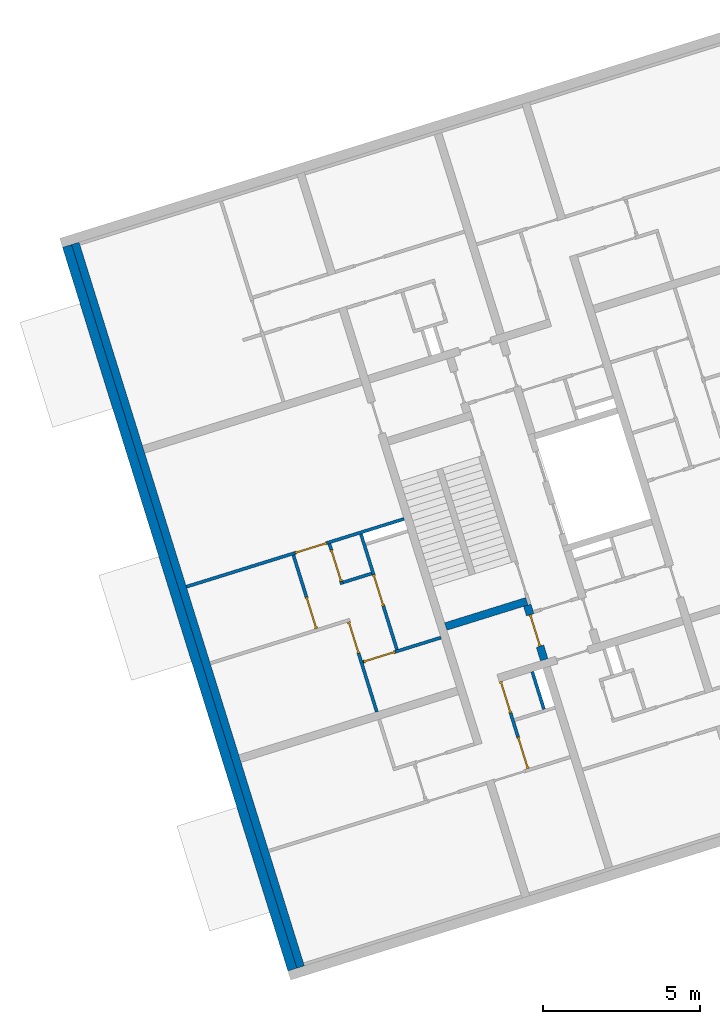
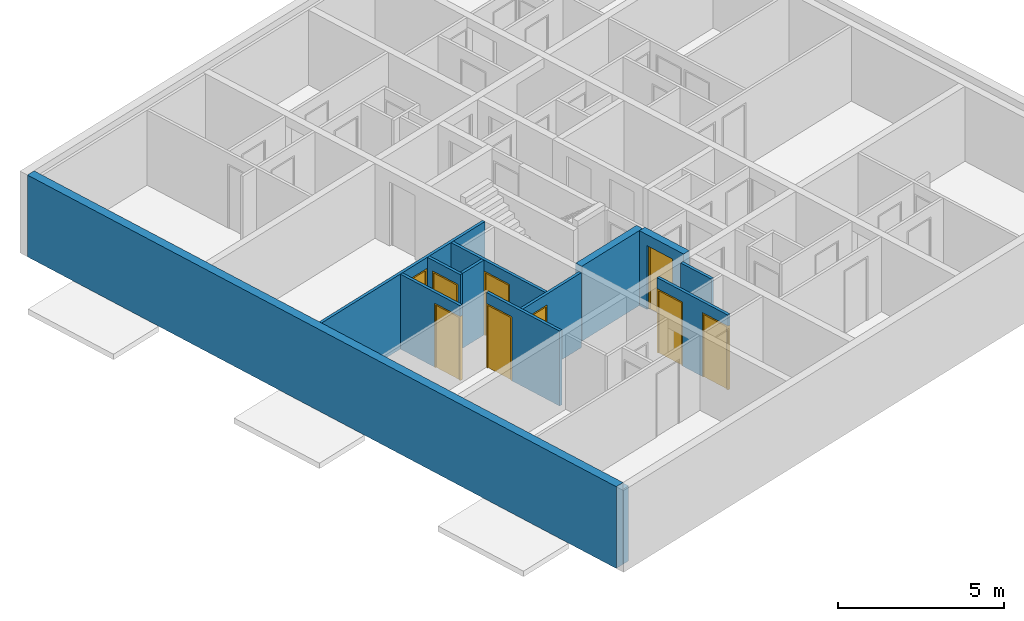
# One storey, part 2 of 9: 13 walls, 9 doors, 9 openings.
"""IFC4 building model written with IfcOpenShell, lengths in metres."""

from ifc_helpers import new_model, entity, si_unit, converted_unit, direction, frame, origin, place, context, subcontext, project, spatial, indexed_curve, outline, extrude, polygons, source, transform, mapped, material, constituent, constituent_set, type_object, type_shapes, element, fill, save


model = new_model("IFC4")

# Units and contexts
model_context = context("Model", 3, precision=1e-05, world=origin(), true_north=direction((6.12323399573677e-17, 1.0)))
body_context = subcontext(model_context, "Body", "Model", "MODEL_VIEW")
ifc_project = project(units=[si_unit("LENGTHUNIT", "METRE"), si_unit("AREAUNIT", "SQUARE_METRE"), converted_unit("PLANEANGLEUNIT", "DEGREE", entity("IfcPlaneAngleMeasure", 0.0174532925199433), si_unit("PLANEANGLEUNIT", "RADIAN"), dimensions=[0, 0, 0, 0, 0, 0, 0]), si_unit("VOLUMEUNIT", "CUBIC_METRE")], contexts=[model_context])

# Site, building, storey
site_placement = place(None, frame((13.1347999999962, 11.9886000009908, 0.0), z_axis=(0.0, 0.0, 1.0), x_axis=(0.954770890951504, 0.297342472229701, 0.0)))
site = spatial("IfcSite", under=ifc_project, at=site_placement, Name="Schiehaven", CompositionType="ELEMENT")
building_placement = place(site_placement, origin())
building = spatial("IfcBuilding", under=site, at=building_placement, Name="VORM huis", CompositionType="ELEMENT")
storey_placement = place(building_placement, frame((0.0, 0.0, 18.9)))
storey = spatial("IfcBuildingStorey", under=building, at=storey_placement, Name="06 zesde verdieping", CompositionType="ELEMENT", Elevation=18.9)

# Walls
ifc_material_1 = material(Name="beton_gewapend_ihw", Category="Miscellaneous")
wall_type_1 = type_object("IfcWallType", Name="Basic Wall:28_WA_skelet_wand 250mm_gen", PredefinedType="STANDARD")
wall_1_placement = place(storey_placement, frame((57.5, 5.0, 0.0), z_axis=(0.0, 0.0, 1.0), x_axis=(0.0, 1.0, 0.0)))
element("IfcWall", 1, at=wall_1_placement, inside=storey, type_object=wall_type_1, material=ifc_material_1, Name="Constructieve wand", ObjectType="Wand", PredefinedType="NOTDEFINED", context=body_context, shape_type="SweptSolid", body=[
    extrude(outline(indexed_curve([(24.1, 0.125), (-3.36234372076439e-16, 0.124999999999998), (3.36234372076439e-16, -0.124999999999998), (24.1, -0.124999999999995), (24.1, 0.125)], self_intersect=False)), origin(), (0.0, 0.0, 1.0), 2.75),
])
ifc_material_2 = material(Name="ntb_ntb_ntb", Category="Miscellaneous")
wall_type_2 = type_object("IfcWallType", Name="Basic Wall: 300mm_gen", PredefinedType="STANDARD")
wall_2_placement = place(storey_placement, frame((57.2249999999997, 29.0999999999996, 0.0), z_axis=(0.0, 0.0, 1.0), x_axis=(0.0, -1.0, 0.0)))
element("IfcWall", 2, at=wall_2_placement, inside=storey, type_object=wall_type_2, material=ifc_material_2, Name="Gevelwand", ObjectType="Wand", PredefinedType="NOTDEFINED", context=body_context, shape_type="SweptSolid", body=[
    extrude(outline(indexed_curve([(24.1, 0.150000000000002), (1.77178001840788e-15, 0.150000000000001), (-1.77178001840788e-15, -0.150000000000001), (24.1, -0.149999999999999), (24.1, 0.150000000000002)], self_intersect=False)), origin(), (0.0, 0.0, 1.0), 3.0),
])

# Wall, opening, door
wall_type_3 = type_object("IfcWallType", Name="Basic Wall:22_WA_afbouw_binnenwand 250mm_gen", PredefinedType="STANDARD")
wall_3_placement = place(storey_placement, frame((67.7999999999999, 13.8399999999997, 0.0), z_axis=(0.0, 0.0, 1.0), x_axis=(0.0, -1.0, 0.0)))
wall_3 = element("IfcWall", 3, at=wall_3_placement, inside=storey, type_object=wall_type_3, material=ifc_material_2, Name="Binnenwand", ObjectType="Wand", PredefinedType="NOTDEFINED", context=body_context, shape_type="Tessellation", body=[
    polygons([(0.0, -0.125000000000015, 0.0), (0.315000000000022, -0.125000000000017, 0.0), (0.315000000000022, -0.125000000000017, 2.34999999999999), (1.36500000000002, -0.125000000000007, 2.34999999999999), (1.36500000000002, -0.125000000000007, 0.0), (1.815, -0.12500000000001, 0.0), (1.815, -0.12500000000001, 2.75), (0.0, -0.125000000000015, 2.75), (0.315000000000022, 0.124999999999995, 2.34999999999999), (0.315000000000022, 0.124999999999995, 0.0), (0.215000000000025, 0.124999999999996, 0.0), (0.0, 0.124999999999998, 0.0), (0.0, 0.124999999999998, 2.75), (0.215000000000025, 0.124999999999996, 2.75), (0.315000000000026, 0.124999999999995, 2.75), (1.815, 0.125000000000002, 2.75), (1.815, 0.125000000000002, 0.0), (1.36500000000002, 0.125000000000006, 0.0), (1.36500000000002, 0.125000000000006, 2.34999999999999), (0.0, 0.0250000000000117, 0.0), (0.0, 0.0250000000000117, 2.75)], [[[1, 2, 3, 4, 5, 6, 7, 8]], [[9, 10, 11, 12, 13, 14, 15, 16, 17, 18, 19]], [[12, 11, 10, 2, 1, 20]], [[7, 6, 17, 16]], [[8, 7, 16, 15, 14, 13, 21]], [[5, 4, 19, 18]], [[3, 2, 10, 9]], [[4, 3, 9, 19]], [[1, 8, 21, 13, 12, 20]], [[18, 17, 6, 5]]], closed=True),
])
opening_1_placement = place(wall_3_placement, frame((0.31500000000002, -0.124999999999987, 0.0)))
opening_1 = element("IfcOpeningElement", 4, at=opening_1_placement, cuts=wall_3, Name="Woningtoegangsdeur", PredefinedType="OPENING", context=body_context, shape_type="SweptSolid", body=[
    extrude(outline(indexed_curve([(2.34999999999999, 1.05), (0.0, 1.05), (0.0, 1.35358391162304e-15), (2.34999999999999, 1.35358391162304e-15), (2.34999999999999, 1.05)], self_intersect=False)), frame((0.0, 0.0, 0.0), z_axis=(0.0, 1.0, 0.0), x_axis=(0.0, 0.0, 1.0)), (0.0, 0.0, 1.0), 0.25),
])
ifc_material_3 = material(Name="PD_a_binnenwandopeningen", Category="Miscellaneous")
ifc_constituent_1 = constituent(ifc_material_3, Name="PD_a_binnenwandopeningen", Category="Miscellaneous")
ifc_material_4 = material(Name="metaal_aluminium_ntb", Category="Miscellaneous")
ifc_constituent_2 = constituent(ifc_material_4, Name="metaal_aluminium_ntb", Category="Miscellaneous")
ifc_constituent_set_1 = constituent_set(constituents=[ifc_constituent_1, ifc_constituent_2])
ifc_constituent_3 = constituent(ifc_material_3, Name="PD_a_binnenwandopeningen", Category="Miscellaneous")
ifc_constituent_4 = constituent(ifc_material_4, Name="Panel", Category="Miscellaneous")
ifc_constituent_set_2 = constituent_set(constituents=[ifc_constituent_3, ifc_constituent_4])
door_type_1 = type_object("IfcDoorType", Name="32_DO_binnendeur enkel:woningtoegangsdeur", OperationType="REVOLVING", PredefinedType="DOOR", material=ifc_constituent_set_2)
shared_shape_1 = source(origin(), body_context, "Body", "SweptSolid", [
    extrude(outline(indexed_curve([(-1.16249999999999, -0.525000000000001), (1.18749999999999, -0.525), (1.18749999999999, 0.525000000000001), (-1.16249999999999, 0.525000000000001), (-1.16249999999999, 0.475), (1.13749999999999, 0.475), (1.13749999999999, -0.475), (-1.16249999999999, -0.475), (-1.16249999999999, -0.525000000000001)], self_intersect=False)), frame((0.525000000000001, 0.0749999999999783, 1.16249999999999), z_axis=(0.0, 1.0, 0.0), x_axis=(0.0, 0.0, 1.0)), (0.0, 0.0, 1.0), 0.1),
    extrude(outline(indexed_curve([(-0.025, -0.475), (0.025, -0.475), (0.025, 0.475), (-0.025, 0.475), (-0.025, -0.475)], self_intersect=False)), frame((0.525000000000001, 0.12499999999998, 0.0), z_axis=(0.0, 0.0, 1.0), x_axis=(0.0, 1.0, 0.0)), (0.0, 0.0, 1.0), 2.29999999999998),
])
type_shapes(door_type_1, [shared_shape_1])
door_1_placement = place(opening_1_placement, origin())
door_1 = element("IfcDoor", 5, at=door_1_placement, inside=storey, type_object=door_type_1, material=ifc_constituent_set_1, Name="Woningtoegangsdeur", ObjectType="Deur", OperationType="REVOLVING", OverallHeight=2.34999999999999, OverallWidth=1.05, PredefinedType="DOOR", context=body_context, shape_type="MappedRepresentation", body=[
    mapped(shared_shape_1, transform((0.0, 0.0, 0.0), scale=1.0)),
])
fill(opening_1, door_1)

# Wall
wall_4_placement = place(storey_placement, frame((65.1249999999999, 13.9649999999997, 0.0)))
element("IfcWall", 6, at=wall_4_placement, inside=storey, type_object=wall_type_3, material=ifc_material_2, Name="Binnenwand", ObjectType="Wand", PredefinedType="NOTDEFINED", context=body_context, shape_type="SweptSolid", body=[
    extrude(outline(indexed_curve([(2.70000000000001, 0.125000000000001), (1.53816777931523e-15, 0.125), (-1.53816777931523e-15, -0.125), (2.70000000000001, -0.124999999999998), (2.70000000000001, 0.125000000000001)], self_intersect=False)), origin(), (0.0, 0.0, 1.0), 2.75),
])

# Wall, openings, doors
wall_type_4 = type_object("IfcWallType", Name="Basic Wall:22_WA_afbouw_binnenwand 100mm_gen", PredefinedType="STANDARD")
wall_5_placement = place(storey_placement, frame((66.275, 11.7749999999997, 0.0), z_axis=(0.0, 0.0, 1.0), x_axis=(0.0, -1.0, 0.0)))
wall_5 = element("IfcWall", 7, at=wall_5_placement, inside=storey, type_object=wall_type_4, material=ifc_material_2, Name="Binnenwand", ObjectType="Wand", PredefinedType="NOTDEFINED", context=body_context, shape_type="Tessellation", body=[
    polygons([(2.90000000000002, -0.0500000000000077, 2.75), (2.16573425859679e-15, -0.050000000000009, 2.75), (2.16573425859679e-15, -0.050000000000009, 2.34999999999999), (1.05, -0.0500000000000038, 2.34999999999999), (1.05, -0.0500000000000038, 2.16573425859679e-15), (1.85, -0.050000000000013, 2.16573425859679e-15), (1.85, -0.050000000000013, 2.34999999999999), (2.90000000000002, -0.0500000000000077, 2.34999999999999), (2.16573425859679e-15, 0.0499999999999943, 2.75), (1.25000000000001, 0.0499999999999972, 2.75), (1.35000000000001, 0.049999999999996, 2.75), (2.90000000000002, 0.0499999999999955, 2.75), (2.90000000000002, 0.0499999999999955, 2.34999999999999), (1.85, 0.0499999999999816, 2.34999999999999), (1.85, 0.0499999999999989, 2.16573425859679e-15), (1.35000000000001, 0.049999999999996, 2.16573425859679e-15), (1.25000000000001, 0.0499999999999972, 2.16573425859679e-15), (1.05, 0.0499999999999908, 2.16573425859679e-15), (1.05, 0.0499999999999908, 2.34999999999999), (2.16573425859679e-15, 0.0499999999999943, 2.34999999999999)], [[[1, 2, 3, 4, 5, 6, 7, 8]], [[9, 10, 11, 12, 13, 14, 15, 16, 17, 18, 19, 20]], [[15, 6, 5, 18, 17, 16]], [[2, 1, 12, 11, 10, 9]], [[2, 9, 20, 3]], [[4, 19, 18, 5]], [[19, 4, 3, 20]], [[14, 7, 6, 15]], [[7, 14, 13, 8]], [[12, 1, 8, 13]]], closed=True),
])
opening_2_placement = place(wall_5_placement, frame((2.9, 0.0500000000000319, 0.0)))
opening_2 = element("IfcOpeningElement", 8, at=opening_2_placement, cuts=wall_5, Name="Binnendeur", PredefinedType="OPENING", context=body_context, shape_type="SweptSolid", body=[
    extrude(outline(indexed_curve([(2.34999999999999, 0.0), (2.34999999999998, 1.05), (0.0, 1.05), (2.16573425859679e-15, 0.0), (2.34999999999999, 0.0)], self_intersect=False)), frame((0.0, 0.0, 0.0), z_axis=(0.0, -1.0, 0.0), x_axis=(0.0, 0.0, 1.0)), (0.0, 0.0, 1.0), 0.1),
])
opening_3_placement = place(wall_5_placement, frame((1.05, 0.0500000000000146, 0.0)))
opening_3 = element("IfcOpeningElement", 9, at=opening_3_placement, cuts=wall_5, Name="Binnendeur", PredefinedType="OPENING", context=body_context, shape_type="SweptSolid", body=[
    extrude(outline(indexed_curve([(2.34999999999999, 1.35358391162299e-15), (2.34999999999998, 1.05), (0.0, 1.05), (2.16573425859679e-15, 1.35358391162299e-15), (2.34999999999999, 1.35358391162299e-15)], self_intersect=False)), frame((0.0, 0.0, 0.0), z_axis=(0.0, -1.0, 0.0), x_axis=(0.0, 0.0, 1.0)), (0.0, 0.0, 1.0), 0.1),
])
ifc_constituent_5 = constituent(ifc_material_3, Name="PD_a_binnenwandopeningen", Category="Miscellaneous")
ifc_constituent_6 = constituent(ifc_material_4, Name="metaal_aluminium_ntb", Category="Miscellaneous")
ifc_constituent_set_3 = constituent_set(constituents=[ifc_constituent_5, ifc_constituent_6])
ifc_constituent_7 = constituent(ifc_material_3, Name="PD_a_binnenwandopeningen", Category="Miscellaneous")
ifc_constituent_8 = constituent(ifc_material_4, Name="Panel", Category="Miscellaneous")
ifc_constituent_set_4 = constituent_set(constituents=[ifc_constituent_7, ifc_constituent_8])
door_type_2 = type_object("IfcDoorType", Name="32_DO_binnendeur enkel:binnendeur", OperationType="REVOLVING", PredefinedType="DOOR", material=ifc_constituent_set_4)
shared_shape_2 = source(origin(), body_context, "Body", "SweptSolid", [
    extrude(outline(indexed_curve([(0.475, -1.16249999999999), (0.525, -1.16249999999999), (0.525, 1.18749999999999), (-0.525, 1.18749999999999), (-0.525, -1.16249999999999), (-0.475, -1.16249999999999), (-0.475, 1.13749999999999), (0.475, 1.13749999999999), (0.475, -1.16249999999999)], self_intersect=False)), frame((0.525000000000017, 0.100000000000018, 1.16249999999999), z_axis=(0.0, -1.0, 0.0), x_axis=(1.0, 0.0, 0.0)), (0.0, 0.0, 1.0), 0.1),
    extrude(outline(indexed_curve([(-0.475, -0.025), (0.475, -0.025), (0.475, 0.025), (-0.475, 0.025), (-0.475, -0.025)], self_intersect=False)), frame((0.525000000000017, 0.0499999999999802, 0.0)), (0.0, 0.0, 1.0), 2.29999999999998),
])
type_shapes(door_type_2, [shared_shape_2])
door_2_placement = place(opening_2_placement, frame((0.0, 0.0, 0.0), z_axis=(0.0, 0.0, 1.0), x_axis=(-1.0, 0.0, 0.0)))
door_2 = element("IfcDoor", 10, at=door_2_placement, inside=storey, type_object=door_type_2, material=ifc_constituent_set_3, Name="Binnendeur", ObjectType="Deur", OperationType="REVOLVING", OverallHeight=2.34999999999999, OverallWidth=1.05, PredefinedType="DOOR", context=body_context, shape_type="MappedRepresentation", body=[
    mapped(shared_shape_2, transform((0.0, 0.0, 0.0), scale=1.0)),
])
fill(opening_2, door_2)
ifc_constituent_9 = constituent(ifc_material_3, Name="PD_a_binnenwandopeningen", Category="Miscellaneous")
ifc_constituent_10 = constituent(ifc_material_4, Name="metaal_aluminium_ntb", Category="Miscellaneous")
ifc_constituent_set_5 = constituent_set(constituents=[ifc_constituent_9, ifc_constituent_10])
door_3_placement = place(opening_3_placement, frame((0.0, 0.0, 0.0), z_axis=(0.0, 0.0, 1.0), x_axis=(-1.0, 0.0, 0.0)))
door_3 = element("IfcDoor", 11, at=door_3_placement, inside=storey, type_object=door_type_2, material=ifc_constituent_set_5, Name="Binnendeur", ObjectType="Deur", OperationType="REVOLVING", OverallHeight=2.34999999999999, OverallWidth=1.05, PredefinedType="DOOR", context=body_context, shape_type="MappedRepresentation", body=[
    mapped(shared_shape_2, transform((0.0, 0.0, 0.0), scale=1.0)),
])
fill(opening_3, door_3)

# Wall
wall_6_placement = place(storey_placement, frame((67.3250000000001, 11.7749999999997, 0.0), z_axis=(0.0, 0.0, 1.0), x_axis=(0.0, -1.0, 0.0)))
element("IfcWall", 12, at=wall_6_placement, inside=storey, type_object=wall_type_4, material=ifc_material_2, Name="Binnenwand", ObjectType="Wand", PredefinedType="NOTDEFINED", context=body_context, shape_type="SweptSolid", body=[
    extrude(outline(indexed_curve([(1.25000000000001, 0.0499999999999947), (-9.34348297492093e-16, 0.0499999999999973), (9.34348297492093e-16, -0.0499999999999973), (1.25000000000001, -0.0499999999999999), (1.25000000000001, 0.0499999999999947)], self_intersect=False)), origin(), (0.0, 0.0, 1.0), 2.75),
])

# Wall, opening, door
wall_7_placement = place(storey_placement, frame((64.8771642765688, 17.6249999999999, 0.0), z_axis=(0.0, 0.0, 1.0), x_axis=(-1.0, 0.0, 0.0)))
wall_7 = element("IfcWall", 13, at=wall_7_placement, inside=storey, type_object=wall_type_4, material=ifc_material_2, Name="Binnenwand", ObjectType="Wand", PredefinedType="NOTDEFINED", context=body_context, shape_type="Tessellation", body=[
    polygons([(-3.1584403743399e-15, -0.0500000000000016, 2.16573425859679e-15), (2.57716427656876, -0.0500000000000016, 2.16573425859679e-15), (2.57716427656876, -0.0500000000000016, 2.34999999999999), (3.62716427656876, -0.0500000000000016, 2.34999999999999), (3.62716427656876, -0.0500000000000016, 2.16573425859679e-15), (7.25216427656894, -0.0499999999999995, 2.16573425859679e-15), (7.25216427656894, -0.0499999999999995, 2.75), (-3.1584403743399e-15, -0.0500000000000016, 2.75), (2.57716427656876, 0.0499999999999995, 2.34999999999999), (2.57716427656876, 0.0499999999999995, 2.16573425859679e-15), (2.55216427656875, 0.0499999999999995, 2.16573425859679e-15), (2.45216427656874, 0.0499999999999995, 2.16573425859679e-15), (1.50216427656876, 0.0499999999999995, 2.16573425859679e-15), (1.40216427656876, 0.0499999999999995, 2.16573425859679e-15), (-3.14057083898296e-15, 0.0499999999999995, 2.16573425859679e-15), (-3.14057083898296e-15, 0.0499999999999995, 2.75), (1.40216427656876, 0.0499999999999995, 2.75), (1.50216427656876, 0.0499999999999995, 2.75), (2.45216427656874, 0.0499999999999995, 2.75), (2.55216427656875, 0.0499999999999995, 2.75), (3.65216427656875, 0.0499999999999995, 2.75), (3.75216427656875, 0.0499999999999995, 2.75), (7.25216427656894, 0.0500000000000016, 2.75), (7.25216427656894, 0.0500000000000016, 2.16573425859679e-15), (3.75216427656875, 0.0499999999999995, 2.16573425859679e-15), (3.65216427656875, 0.0499999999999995, 2.16573425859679e-15), (3.62716427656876, 0.0499999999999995, 2.16573425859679e-15), (3.62716427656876, 0.0499999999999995, 2.34999999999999)], [[[1, 2, 3, 4, 5, 6, 7, 8]], [[9, 10, 11, 12, 13, 14, 15, 16, 17, 18, 19, 20, 21, 22, 23, 24, 25, 26, 27, 28]], [[15, 14, 13, 12, 11, 10, 2, 1]], [[7, 6, 24, 23]], [[8, 7, 23, 22, 21, 20, 19, 18, 17, 16]], [[1, 8, 16, 15]], [[5, 4, 28, 27]], [[3, 2, 10, 9]], [[4, 3, 9, 28]], [[27, 26, 25, 24, 6, 5]]], closed=True),
])
opening_4_placement = place(wall_7_placement, frame((3.62716427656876, 0.0499999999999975, 0.0)))
opening_4 = element("IfcOpeningElement", 14, at=opening_4_placement, cuts=wall_7, Name="Binnendeur", PredefinedType="OPENING", context=body_context, shape_type="SweptSolid", body=[
    extrude(outline(indexed_curve([(2.34999999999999, 3.47701286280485e-32), (2.34999999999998, 1.05), (0.0, 1.05), (2.16573425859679e-15, 3.47701286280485e-32), (2.34999999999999, 3.47701286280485e-32)], self_intersect=False)), frame((0.0, 0.0, 0.0), z_axis=(0.0, -1.0, 0.0), x_axis=(0.0, 0.0, 1.0)), (0.0, 0.0, 1.0), 0.1),
])
ifc_constituent_11 = constituent(ifc_material_3, Name="PD_a_binnenwandopeningen", Category="Miscellaneous")
ifc_constituent_12 = constituent(ifc_material_4, Name="metaal_aluminium_ntb", Category="Miscellaneous")
ifc_constituent_set_6 = constituent_set(constituents=[ifc_constituent_11, ifc_constituent_12])
door_4_placement = place(opening_4_placement, frame((0.0, 0.0, 0.0), z_axis=(0.0, 0.0, 1.0), x_axis=(-1.0, 0.0, 0.0)))
door_4 = element("IfcDoor", 15, at=door_4_placement, inside=storey, type_object=door_type_2, material=ifc_constituent_set_6, Name="Binnendeur", ObjectType="Deur", OperationType="REVOLVING", OverallHeight=2.34999999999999, OverallWidth=1.05, PredefinedType="DOOR", context=body_context, shape_type="MappedRepresentation", body=[
    mapped(shared_shape_2, transform((0.0, 0.0, 0.0), scale=1.0)),
])
fill(opening_4, door_4)

wall_8_placement = place(storey_placement, frame((62.375, 16.2249999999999, 0.0), z_axis=(0.0, 0.0, 1.0), x_axis=(0.0, 1.0, 0.0)))
wall_8 = element("IfcWall", 16, at=wall_8_placement, inside=storey, type_object=wall_type_4, material=ifc_material_2, Name="Binnenwand", ObjectType="Wand", PredefinedType="NOTDEFINED", context=body_context, shape_type="Tessellation", body=[
    polygons([(1.15, -0.0500000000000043, 2.34999999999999), (1.15, -0.0500000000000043, 2.16573425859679e-15), (1.35, -0.0500000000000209, 2.16573425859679e-15), (1.35, -0.0500000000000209, 2.75), (0.100000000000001, -0.050000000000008, 2.75), (0.0, -0.0500000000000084, 2.75), (0.0, -0.0500000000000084, 2.16573425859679e-15), (0.0999999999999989, -0.050000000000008, 2.16573425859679e-15), (0.0999999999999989, -0.050000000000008, 2.34999999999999), (1.35, 0.049999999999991, 2.16573425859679e-15), (1.15, 0.0500000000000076, 2.16573425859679e-15), (1.15, 0.0500000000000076, 2.34999999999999), (0.0999999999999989, 0.0500000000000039, 2.34999999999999), (0.0999999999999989, 0.0500000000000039, 2.16573425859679e-15), (0.0, 0.0500000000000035, 2.16573425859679e-15), (0.0, 0.0500000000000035, 2.75), (1.35, 0.049999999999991, 2.75)], [[[1, 2, 3, 4, 5, 6, 7, 8, 9]], [[10, 11, 12, 13, 14, 15, 16, 17]], [[8, 7, 15, 14]], [[6, 5, 4, 17, 16]], [[14, 13, 9, 8]], [[12, 11, 2, 1]], [[13, 12, 1, 9]], [[7, 6, 16, 15]], [[4, 3, 10, 17]], [[3, 2, 11, 10]]], closed=True),
])
opening_5_placement = place(wall_8_placement, frame((0.0999999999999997, -0.050000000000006, 0.0)))
opening_5 = element("IfcOpeningElement", 17, at=opening_5_placement, cuts=wall_8, Name="Binnendeur", PredefinedType="OPENING", context=body_context, shape_type="SweptSolid", body=[
    extrude(outline(indexed_curve([(2.34999999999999, 1.35358391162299e-15), (2.34999999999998, 1.05), (0.0, 1.05), (2.16573425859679e-15, 1.35358391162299e-15), (2.34999999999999, 1.35358391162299e-15)], self_intersect=False)), frame((0.0, 0.0, 0.0), z_axis=(0.0, 1.0, 0.0), x_axis=(0.0, 0.0, 1.0)), (0.0, 0.0, 1.0), 0.1),
])
ifc_constituent_13 = constituent(ifc_material_3, Name="PD_a_binnenwandopeningen", Category="Miscellaneous")
ifc_constituent_14 = constituent(ifc_material_4, Name="metaal_aluminium_ntb", Category="Miscellaneous")
ifc_constituent_set_7 = constituent_set(constituents=[ifc_constituent_13, ifc_constituent_14])
door_5_placement = place(opening_5_placement, origin())
door_5 = element("IfcDoor", 18, at=door_5_placement, inside=storey, type_object=door_type_2, material=ifc_constituent_set_7, Name="Binnendeur", ObjectType="Deur", OperationType="REVOLVING", OverallHeight=2.34999999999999, OverallWidth=1.05, PredefinedType="DOOR", context=body_context, shape_type="MappedRepresentation", body=[
    mapped(shared_shape_2, transform((0.0, 0.0, 0.0), scale=1.0)),
])
fill(opening_5, door_5)

# Wall
wall_9_placement = place(storey_placement, frame((63.375, 16.2749999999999, 0.0), z_axis=(0.0, 0.0, 1.0), x_axis=(-1.0, 0.0, 0.0)))
element("IfcWall", 19, at=wall_9_placement, inside=storey, type_object=wall_type_4, material=ifc_material_2, Name="Binnenwand", ObjectType="Wand", PredefinedType="NOTDEFINED", context=body_context, shape_type="SweptSolid", body=[
    extrude(outline(indexed_curve([(0.949999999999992, 0.0499999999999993), (8.93476767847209e-18, 0.0499999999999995), (-8.93476767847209e-18, -0.0499999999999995), (0.949999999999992, -0.0499999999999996), (0.949999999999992, 0.0499999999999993)], self_intersect=False)), origin(), (0.0, 0.0, 1.0), 2.75),
])

# Wall, opening, door
wall_10_placement = place(storey_placement, frame((61.175, 15.1249999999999, 0.0), z_axis=(0.0, 0.0, 1.0), x_axis=(0.0, 1.0, 0.0)))
wall_10 = element("IfcWall", 20, at=wall_10_placement, inside=storey, type_object=wall_type_4, material=ifc_material_2, Name="Binnenwand", ObjectType="Wand", PredefinedType="NOTDEFINED", context=body_context, shape_type="Tessellation", body=[
    polygons([(2.45, -0.0500000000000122, 2.75), (-2.16573425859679e-15, -0.0500000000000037, 2.75), (-2.16573425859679e-15, -0.0500000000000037, 2.34999999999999), (1.05, -0.0499999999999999, 2.34999999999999), (1.05, -0.0499999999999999, 2.16573425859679e-15), (2.45, -0.0500000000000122, 2.16573425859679e-15), (-2.16573425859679e-15, 0.0500000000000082, 2.75), (2.45, 0.0499999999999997, 2.75), (2.45, 0.0499999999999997, 2.16573425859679e-15), (1.05, 0.050000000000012, 2.16573425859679e-15), (1.05, 0.050000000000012, 2.34999999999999), (-2.16573425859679e-15, 0.0500000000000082, 2.34999999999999)], [[[1, 2, 3, 4, 5, 6]], [[7, 8, 9, 10, 11, 12]], [[9, 6, 5, 10]], [[2, 1, 8, 7]], [[4, 11, 10, 5]], [[11, 4, 3, 12]], [[2, 7, 12, 3]], [[1, 6, 9, 8]]], closed=True),
])
opening_6_placement = place(wall_10_placement, frame((1.05000000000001, 0.0499999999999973, 0.0)))
opening_6 = element("IfcOpeningElement", 21, at=opening_6_placement, cuts=wall_10, Name="Binnendeur", PredefinedType="OPENING", context=body_context, shape_type="SweptSolid", body=[
    extrude(outline(indexed_curve([(2.34999999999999, 1.35358391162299e-15), (2.34999999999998, 1.05), (0.0, 1.05), (2.16573425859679e-15, 1.35358391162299e-15), (2.34999999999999, 1.35358391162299e-15)], self_intersect=False)), frame((0.0, 0.0, 0.0), z_axis=(0.0, -1.0, 0.0), x_axis=(0.0, 0.0, 1.0)), (0.0, 0.0, 1.0), 0.1),
])
ifc_constituent_15 = constituent(ifc_material_3, Name="PD_a_binnenwandopeningen", Category="Miscellaneous")
ifc_constituent_16 = constituent(ifc_material_4, Name="metaal_aluminium_ntb", Category="Miscellaneous")
ifc_constituent_set_8 = constituent_set(constituents=[ifc_constituent_15, ifc_constituent_16])
door_6_placement = place(opening_6_placement, frame((0.0, 0.0, 0.0), z_axis=(0.0, 0.0, 1.0), x_axis=(-1.0, 0.0, 0.0)))
door_6 = element("IfcDoor", 22, at=door_6_placement, inside=storey, type_object=door_type_2, material=ifc_constituent_set_8, Name="Binnendeur", ObjectType="Deur", OperationType="REVOLVING", OverallHeight=2.34999999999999, OverallWidth=1.05, PredefinedType="DOOR", context=body_context, shape_type="MappedRepresentation", body=[
    mapped(shared_shape_2, transform((0.0, 0.0, 0.0), scale=1.0)),
])
fill(opening_6, door_6)

wall_11_placement = place(storey_placement, frame((62.225, 12.0249999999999, 0.0), z_axis=(0.0, 0.0, 1.0), x_axis=(0.0, 1.0, 0.0)))
wall_11 = element("IfcWall", 23, at=wall_11_placement, inside=storey, type_object=wall_type_4, material=ifc_material_2, Name="Binnenwand", ObjectType="Wand", PredefinedType="NOTDEFINED", context=body_context, shape_type="Tessellation", body=[
    polygons([(3.00000000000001, -0.0500000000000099, 2.75), (1.70000000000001, -0.0500000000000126, 2.75), (1.60000000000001, -0.0500000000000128, 2.75), (0.0, -0.0500000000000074, 2.75), (0.0, -0.0500000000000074, 2.16573425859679e-15), (1.60000000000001, -0.0500000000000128, 2.16573425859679e-15), (1.70000000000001, -0.0500000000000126, 2.16573425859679e-15), (1.95000000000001, -0.0500000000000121, 2.16573425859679e-15), (1.95000000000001, -0.0500000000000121, 2.34999999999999), (3.00000000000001, -0.0500000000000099, 2.34999999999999), (0.0, 0.0499999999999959, 2.75), (3.00000000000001, 0.0499999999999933, 2.75), (3.00000000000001, 0.0499999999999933, 2.34999999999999), (1.95000000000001, 0.0499999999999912, 2.34999999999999), (1.95000000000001, 0.0499999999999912, 2.16573425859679e-15), (0.0, 0.0499999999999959, 2.16573425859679e-15)], [[[1, 2, 3, 4, 5, 6, 7, 8, 9, 10]], [[11, 12, 13, 14, 15, 16]], [[5, 16, 15, 8, 7, 6]], [[4, 3, 2, 1, 12, 11]], [[5, 4, 11, 16]], [[14, 9, 8, 15]], [[9, 14, 13, 10]], [[12, 1, 10, 13]]], closed=True),
])
opening_7_placement = place(wall_11_placement, frame((3.0, 0.04999999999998, 0.0)))
opening_7 = element("IfcOpeningElement", 24, at=opening_7_placement, cuts=wall_11, Name="Binnendeur", PredefinedType="OPENING", context=body_context, shape_type="SweptSolid", body=[
    extrude(outline(indexed_curve([(2.34999999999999, 1.08286712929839e-15), (2.34999999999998, 1.05), (0.0, 1.05), (2.16573425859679e-15, 1.08286712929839e-15), (2.34999999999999, 1.08286712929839e-15)], self_intersect=False)), frame((0.0, 0.0, 0.0), z_axis=(0.0, -1.0, 0.0), x_axis=(0.0, 0.0, 1.0)), (0.0, 0.0, 1.0), 0.1),
])
ifc_constituent_17 = constituent(ifc_material_3, Name="PD_a_binnenwandopeningen", Category="Miscellaneous")
ifc_constituent_18 = constituent(ifc_material_4, Name="metaal_aluminium_ntb", Category="Miscellaneous")
ifc_constituent_set_9 = constituent_set(constituents=[ifc_constituent_17, ifc_constituent_18])
door_7_placement = place(opening_7_placement, frame((0.0, 0.0, 0.0), z_axis=(0.0, 0.0, 1.0), x_axis=(-1.0, 0.0, 0.0)))
door_7 = element("IfcDoor", 25, at=door_7_placement, inside=storey, type_object=door_type_2, material=ifc_constituent_set_9, Name="Binnendeur", ObjectType="Deur", OperationType="REVOLVING", OverallHeight=2.34999999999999, OverallWidth=1.05, PredefinedType="DOOR", context=body_context, shape_type="MappedRepresentation", body=[
    mapped(shared_shape_2, transform((0.0, 0.0, 0.0), scale=1.0)),
])
fill(opening_7, door_7)

wall_12_placement = place(storey_placement, frame((62.275, 13.6749999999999, 0.0)))
wall_12 = element("IfcWall", 26, at=wall_12_placement, inside=storey, type_object=wall_type_4, material=ifc_material_2, Name="Binnenwand", ObjectType="Wand", PredefinedType="NOTDEFINED", context=body_context, shape_type="Tessellation", body=[
    polygons([(1.07499999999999, -0.0499999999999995, 2.34999999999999), (1.07499999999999, -0.0499999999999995, 2.16573425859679e-15), (2.59999999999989, -0.0499999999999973, 2.16573425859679e-15), (2.59999999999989, -0.0499999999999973, 2.75), (4.21040811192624e-16, -0.0499999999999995, 2.75), (4.21040811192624e-16, -0.0499999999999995, 2.16573425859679e-15), (0.0249999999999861, -0.0499999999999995, 2.16573425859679e-15), (0.0249999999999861, -0.0499999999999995, 2.34999999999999), (2.59999999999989, 0.0499999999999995, 2.16573425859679e-15), (1.2, 0.0500000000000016, 2.16573425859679e-15), (1.09999999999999, 0.0500000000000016, 2.16573425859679e-15), (1.07499999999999, 0.0500000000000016, 2.16573425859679e-15), (1.07499999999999, 0.0500000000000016, 2.34999999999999), (0.0249999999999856, 0.0500000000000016, 2.34999999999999), (0.0249999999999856, 0.0500000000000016, 2.16573425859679e-15), (-8.45184949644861e-17, 0.0500000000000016, 2.16573425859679e-15), (-8.45184949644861e-17, 0.0500000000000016, 2.75), (1.09999999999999, 0.0500000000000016, 2.75), (1.2, 0.0500000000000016, 2.75), (2.59999999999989, 0.0499999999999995, 2.75)], [[[1, 2, 3, 4, 5, 6, 7, 8]], [[9, 10, 11, 12, 13, 14, 15, 16, 17, 18, 19, 20]], [[7, 6, 16, 15]], [[4, 3, 9, 20]], [[5, 4, 20, 19, 18, 17]], [[15, 14, 8, 7]], [[13, 12, 2, 1]], [[14, 13, 1, 8]], [[6, 5, 17, 16]], [[3, 2, 12, 11, 10, 9]]], closed=True),
])
opening_8_placement = place(wall_12_placement, frame((0.0249999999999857, -0.0499999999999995, 0.0)))
opening_8 = element("IfcOpeningElement", 27, at=opening_8_placement, cuts=wall_12, Name="Binnendeur", PredefinedType="OPENING", context=body_context, shape_type="SweptSolid", body=[
    extrude(outline(indexed_curve([(2.34999999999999, 0.0), (2.34999999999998, 1.05), (0.0, 1.05), (2.16573425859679e-15, 0.0), (2.34999999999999, 0.0)], self_intersect=False)), frame((0.0, 0.0, 0.0), z_axis=(0.0, 1.0, 0.0), x_axis=(0.0, 0.0, 1.0)), (0.0, 0.0, 1.0), 0.1),
])
ifc_constituent_19 = constituent(ifc_material_3, Name="PD_a_binnenwandopeningen", Category="Miscellaneous")
ifc_constituent_20 = constituent(ifc_material_4, Name="metaal_aluminium_ntb", Category="Miscellaneous")
ifc_constituent_set_10 = constituent_set(constituents=[ifc_constituent_19, ifc_constituent_20])
door_8_placement = place(opening_8_placement, origin())
door_8 = element("IfcDoor", 28, at=door_8_placement, inside=storey, type_object=door_type_2, material=ifc_constituent_set_10, Name="Binnendeur", ObjectType="Deur", OperationType="REVOLVING", OverallHeight=2.34999999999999, OverallWidth=1.05, PredefinedType="DOOR", context=body_context, shape_type="MappedRepresentation", body=[
    mapped(shared_shape_2, transform((0.0, 0.0, 0.0), scale=1.0)),
])
fill(opening_8, door_8)

wall_13_placement = place(storey_placement, frame((63.425, 13.7249999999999, 0.0), z_axis=(0.0, 0.0, 1.0), x_axis=(0.0, 1.0, 0.0)))
wall_13 = element("IfcWall", 29, at=wall_13_placement, inside=storey, type_object=wall_type_4, material=ifc_material_2, Name="Binnenwand", ObjectType="Wand", PredefinedType="NOTDEFINED", context=body_context, shape_type="Tessellation", body=[
    polygons([(2.50000000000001, -0.0500000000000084, 2.34999999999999), (2.50000000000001, -0.0500000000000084, 2.16573425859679e-15), (3.45000000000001, -0.050000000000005, 2.16573425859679e-15), (3.55000000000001, -0.0500000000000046, 2.16573425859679e-15), (3.85000000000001, -0.0500000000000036, 2.16573425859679e-15), (3.85000000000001, -0.0500000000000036, 2.75), (3.55000000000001, -0.0500000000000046, 2.75), (3.45000000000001, -0.050000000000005, 2.75), (0.0, -0.0500000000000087, 2.75), (0.0, -0.0500000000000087, 2.16573425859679e-15), (1.45000000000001, -0.0500000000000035, 2.16573425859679e-15), (1.45000000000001, -0.0500000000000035, 2.34999999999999), (3.85000000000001, 0.0499999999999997, 2.16573425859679e-15), (2.60000000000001, 0.0499999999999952, 2.16573425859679e-15), (2.50000000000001, 0.0499999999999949, 2.16573425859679e-15), (2.50000000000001, 0.0499999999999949, 2.34999999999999), (1.45000000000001, 0.0499999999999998, 2.34999999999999), (1.45000000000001, 0.0499999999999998, 2.16573425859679e-15), (0.0, 0.0499999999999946, 2.16573425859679e-15), (0.0, 0.0499999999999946, 2.75), (2.50000000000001, 0.0499999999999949, 2.75), (2.60000000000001, 0.0499999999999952, 2.75), (3.85000000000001, 0.0499999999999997, 2.75)], [[[1, 2, 3, 4, 5, 6, 7, 8, 9, 10, 11, 12]], [[13, 14, 15, 16, 17, 18, 19, 20, 21, 22, 23]], [[11, 10, 19, 18]], [[9, 8, 7, 6, 23, 22, 21, 20]], [[18, 17, 12, 11]], [[16, 15, 2, 1]], [[17, 16, 1, 12]], [[10, 9, 20, 19]], [[6, 5, 13, 23]], [[5, 4, 3, 2, 15, 14, 13]]], closed=True),
])
opening_9_placement = place(wall_13_placement, frame((1.45000000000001, -0.0499999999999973, 0.0)))
opening_9 = element("IfcOpeningElement", 30, at=opening_9_placement, cuts=wall_13, Name="Binnendeur", PredefinedType="OPENING", context=body_context, shape_type="SweptSolid", body=[
    extrude(outline(indexed_curve([(2.34999999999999, 1.35358391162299e-15), (2.34999999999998, 1.05), (0.0, 1.05), (2.16573425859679e-15, 1.35358391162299e-15), (2.34999999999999, 1.35358391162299e-15)], self_intersect=False)), frame((0.0, 0.0, 0.0), z_axis=(0.0, 1.0, 0.0), x_axis=(0.0, 0.0, 1.0)), (0.0, 0.0, 1.0), 0.1),
])
ifc_constituent_21 = constituent(ifc_material_3, Name="PD_a_binnenwandopeningen", Category="Miscellaneous")
ifc_constituent_22 = constituent(ifc_material_4, Name="metaal_aluminium_ntb", Category="Miscellaneous")
ifc_constituent_set_11 = constituent_set(constituents=[ifc_constituent_21, ifc_constituent_22])
door_9_placement = place(opening_9_placement, origin())
door_9 = element("IfcDoor", 31, at=door_9_placement, inside=storey, type_object=door_type_2, material=ifc_constituent_set_11, Name="Binnendeur", ObjectType="Deur", OperationType="REVOLVING", OverallHeight=2.34999999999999, OverallWidth=1.05, PredefinedType="DOOR", context=body_context, shape_type="MappedRepresentation", body=[
    mapped(shared_shape_2, transform((0.0, 0.0, 0.0), scale=1.0)),
])
fill(opening_9, door_9)

save(model, "model.ifc")
